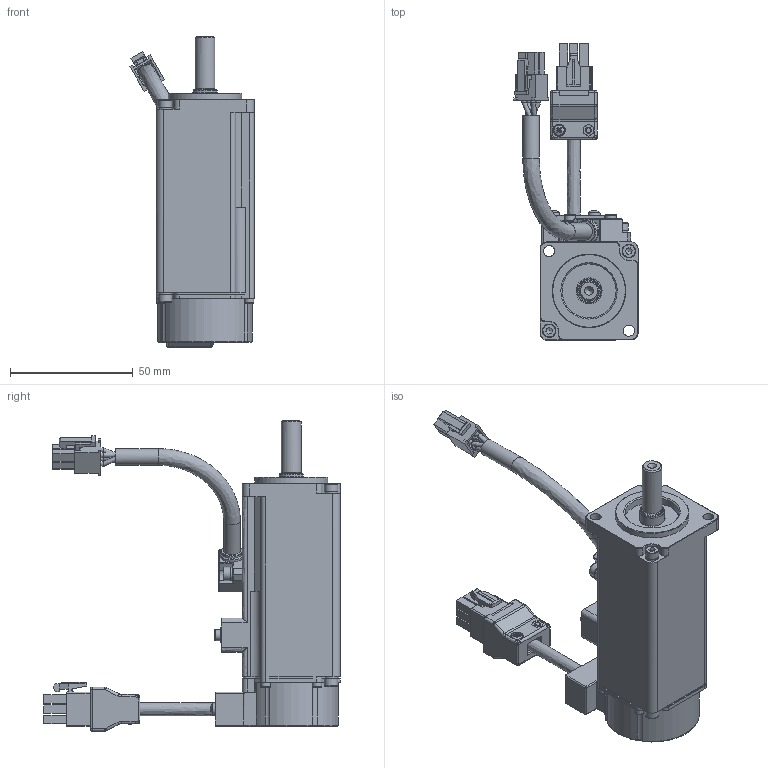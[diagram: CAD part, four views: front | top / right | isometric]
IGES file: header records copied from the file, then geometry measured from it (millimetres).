
Global section: file name: SME-L005B; native system: Autodesk Inventor 2014; preprocessor: unknown; author: Mejust; date: 20170817.134000; units: millimetre
Bounding box: 50.65 x 121 x 126.7 mm (x, y, z)
Volume: 168457.8 mm3; surface area: 44755 mm2
Topology: 3 solids, 60 shells, 1614 faces, 4294 edges, 2846 vertices
Faces by surface type: bspline 1614
